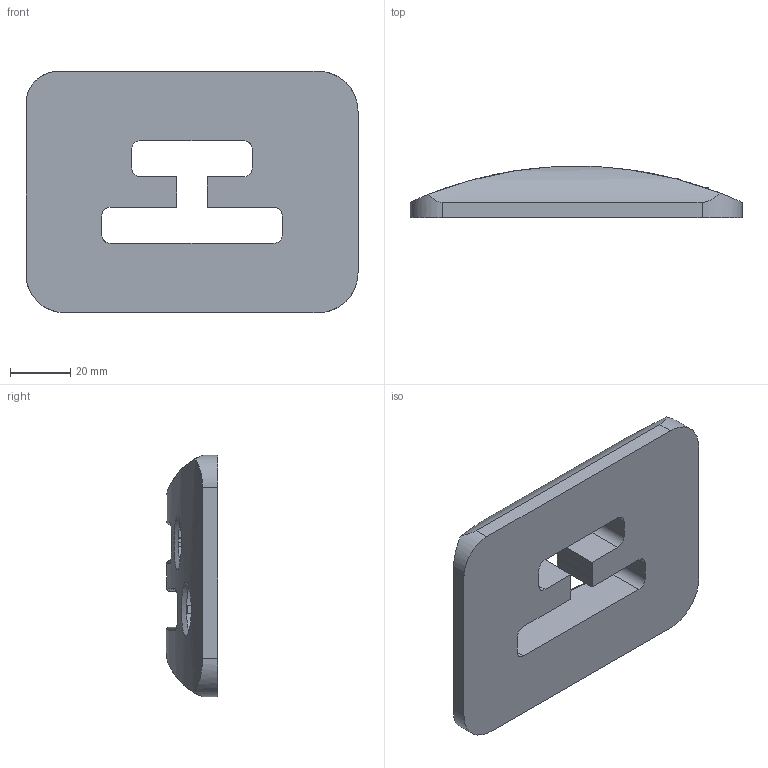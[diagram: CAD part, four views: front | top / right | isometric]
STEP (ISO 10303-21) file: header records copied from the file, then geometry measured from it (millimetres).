
FILE_DESCRIPTION(('STEP AP214'), '1');
FILE_NAME('Òåëî 4', '', ('UNSPECIFIED'), ('UNSPECIFIED'), 'C3D Converter', 'C3D Toolkit', '');
FILE_SCHEMA(('AUTOMOTIVE_DESIGN { 1 0 10303 214 3 1 1}'));
Length unit declared in the file: millimetre
Bounding box: 110 x 17 x 80 mm (x, y, z)
Surface area: 43447 mm2
Topology: 1 solids, 1 shells, 305 faces, 812 edges, 524 vertices
Faces by surface type: plane 126, extrusion 92, cylinder 43, bspline 32, torus 12
Entity records: 23398 total; most frequent: CARTESIAN_POINT 16411, ORIENTED_EDGE 1592, DIRECTION 1072, EDGE_CURVE 796, VECTOR 528, VERTEX_POINT 525, LINE 436, B_SPLINE_CURVE_WITH_KNOTS 360
